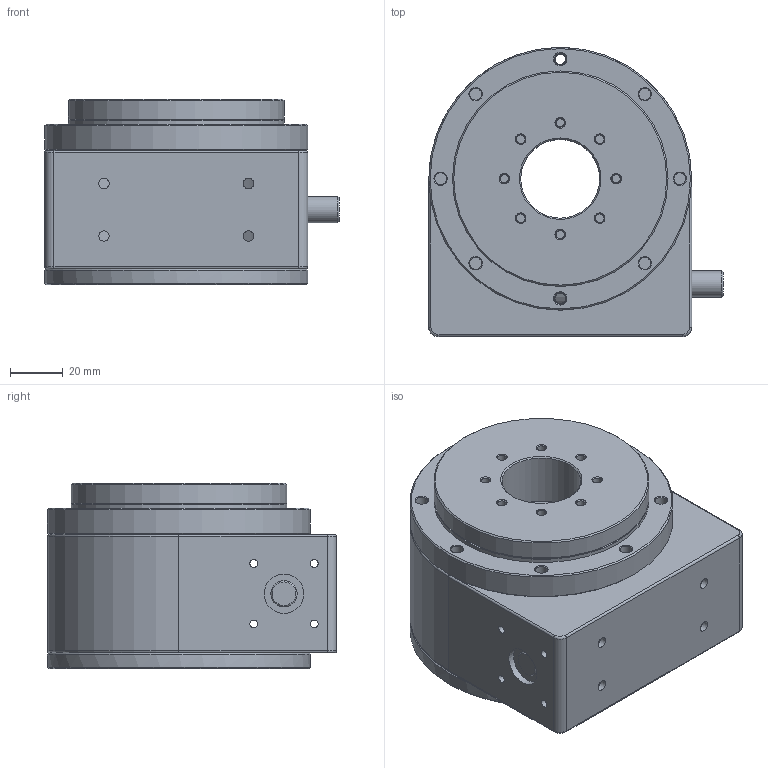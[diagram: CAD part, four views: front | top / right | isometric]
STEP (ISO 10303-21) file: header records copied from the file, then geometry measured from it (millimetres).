
FILE_DESCRIPTION((''),'2;1');
FILE_NAME('I:\Gleitlager\Konstruktion\robolink\Vorserie\RL-D\RL-D Gelenke\Simpel STEP 102\RL-D-30-102-50-high-end.stp','2015-05-19T11:16:37',('mraak'),(''),'Autodesk Inventor 2013','Autodesk Inventor 2013','');
FILE_SCHEMA(('AUTOMOTIVE_DESIGN { 1 0 10303 214 1 1 1 1 }'));
Length unit declared in the file: millimetre
Products named in the file (9): ___RL-D-30-102-50-00035; ___RL-D-30-0XXXX; ___RL-D-30-X0XXX; PRT-01-30; Bauteil31; Bauteil27; Bauteil29; Bauteil19; ___RL-D-30-XXX4X
Assembly tree (11 placements, depth 3):
  ___RL-D-30-102-50-00035
    ___RL-D-30-0XXXX
    ___RL-D-30-X0XXX
    PRT-01-30
      Bauteil31
      Bauteil27
      Bauteil29
      Bauteil19  x4
    ___RL-D-30-XXX4X
Bounding box: 112 x 110 x 70.5 mm (x, y, z)
Volume: 296785.8 mm3; surface area: 133944.4 mm2
Topology: 10 solids, 10 shells, 326 faces, 691 edges, 408 vertices
Faces by surface type: cylinder 117, cone 108, plane 87, torus 14
Full cylindrical faces by diameter (mm): 3 x8, 3.3 x8, 4 x28, 4.3 x8, 4.5 x16, 7 x4, 8 x8, 10 x4, 15 x2, 20 x3, 30 x3, 55 x2, 58 x2, 80 x1, 82 x4, 83 x2, 100 x2
Entity records: 6989 total; most frequent: DIRECTION 1278, CARTESIAN_POINT 1064, ORIENTED_EDGE 776, AXIS2_PLACEMENT_3D 618, EDGE_LOOP 594, EDGE_CURVE 388, VERTEX_POINT 338, CIRCLE 332
